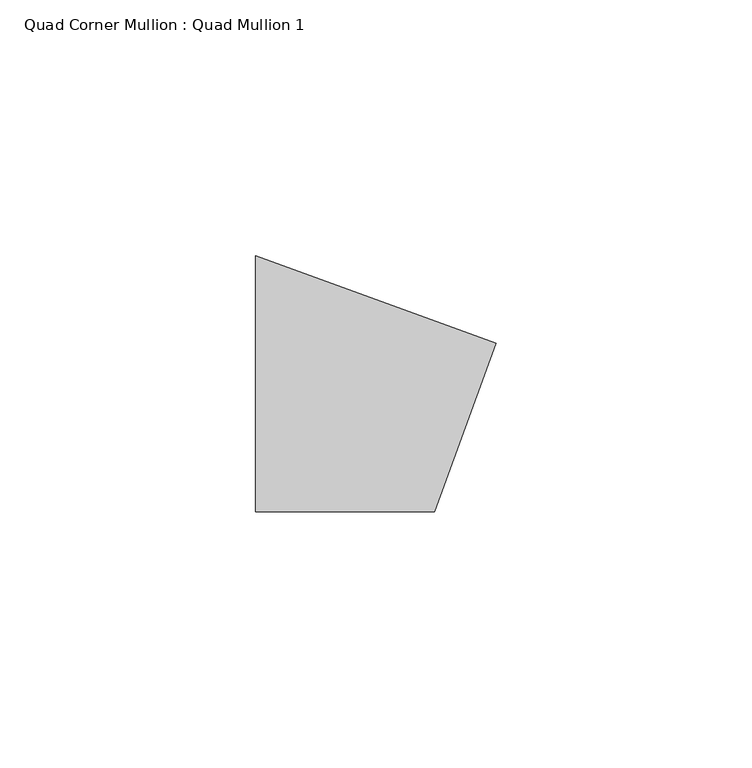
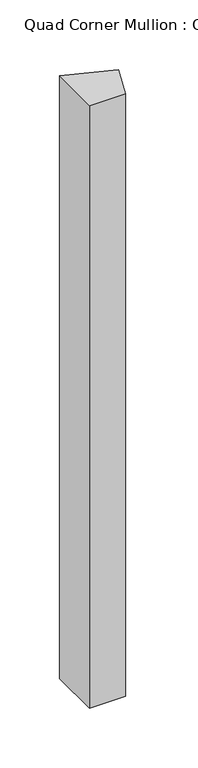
"""IFC4 building model written with IfcOpenShell, lengths in millimetres: member geometry, Quad Corner Mullion : Quad Mullion 1."""

from ifc_helpers import new_model, si_unit, frame, origin, place, context, project, spatial, polyline, outline, extrude, source, transform, mapped, element, save


def quad_corner_mullion_quad_mullion_1_5d0ae1b2(model_context):
    return source(origin(), model_context, "Body", "SweptSolid", [
        extrude(outline(polyline([(29.4794426, 7.8989928), (17.5051885, -25.0), (-17.5051885, -25.0), (-17.5051885, 25.0), (29.4794426, 7.8989928)])), frame((0.0, 0.0, -615.6143513), z_axis=(0.0, 0.0, 1.0), x_axis=(1.0, 0.0, 0.0)), (0.0, 0.0, 1.0), 615.6143513),
    ])


if __name__ == "__main__":
    model = new_model("IFC4")
    model_context = context("Model", 3, world=origin())
    ifc_project = project(units=[si_unit("LENGTHUNIT", "METRE", prefix="MILLI")], contexts=[model_context])
    site = spatial("IfcSite", under=ifc_project)
    building = spatial("IfcBuilding", under=site)
    placement = place(None, origin())
    quad_corner_mullion_quad_mullion_1_shape = quad_corner_mullion_quad_mullion_1_5d0ae1b2(model_context)
    element("IfcMember", 1, ObjectType="Quad Corner Mullion : Quad Mullion 1", at=placement, inside=building, context=model_context, shape_type="MappedRepresentation", body=[
        mapped(quad_corner_mullion_quad_mullion_1_shape, transform((0.0, 0.0, 0.0), x_axis=(1.0, 0.0, 0.0), y_axis=(0.0, 1.0, 0.0), z_axis=(0.0, 0.0, 1.0))),
    ])
    save(model, "model.ifc")
